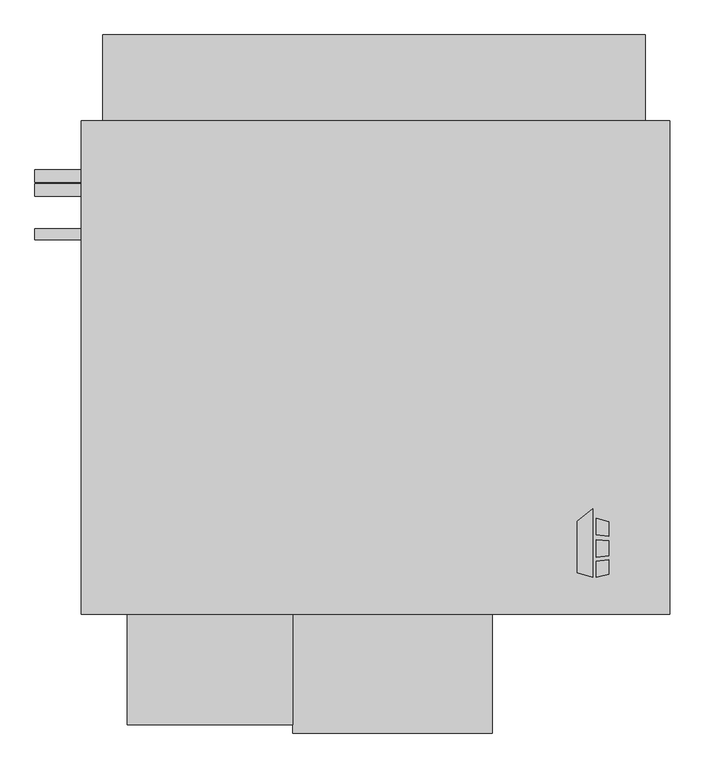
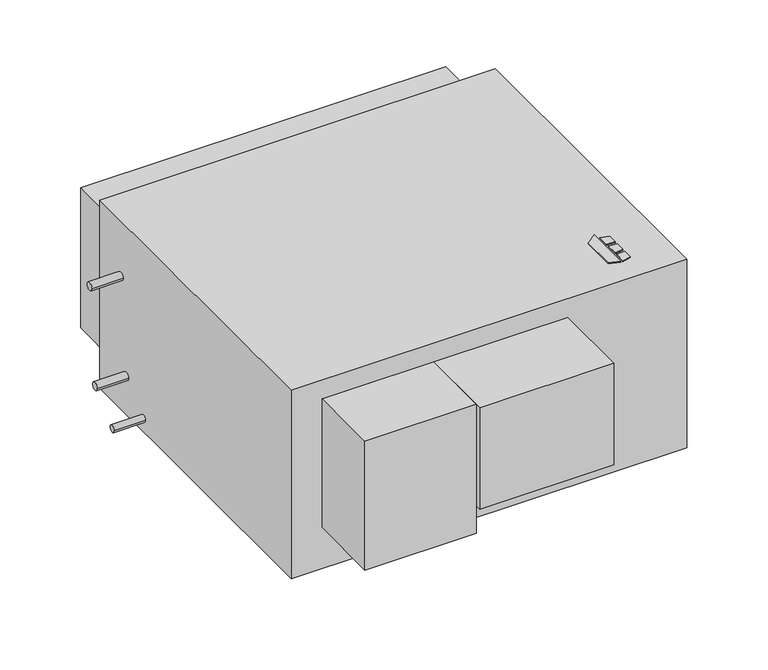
"""IFC4 building model written with IfcOpenShell, lengths in millimetres: proxy geometry, Horizontal_Direct_Drive_Blower_Coil_Unit_-_HDY_-_IEC_-_2-Pipe_Cool-EHeat_LH_2022 : Size 20 - 460v/60Hz/3Ph - 8 Row 19.9kW LH."""

from ifc_helpers import new_model, si_unit, point, frame, frame_2d, origin, origin_with_axes, place, context, project, spatial, polyline, circle_curve, trimmed, segment, composite_curve, outline, extrude, source, transform, mapped, element, save


def mechanical_equipment_acc0227f(model_context):
    return source(origin(), model_context, "Body", "SweptSolid", [
        extrude(outline(polyline([(-39.9980239, -337.5078476), (-7.4397272, -312.0705184), (-7.4397272, -454.025), (-39.9980239, -443.8054201), (-39.9980239, -337.5078476)])), origin_with_axes(), (0.0, 0.0, 1.0), 3.175),
        extrude(outline(polyline([(-0.6813942, -365.379852), (-0.6813942, -330.8999379), (25.4, -339.0865115), (25.4, -368.5822446), (-0.6813942, -365.379852)])), origin_with_axes(), (0.0, 0.0, 1.0), 3.175),
        extrude(outline(polyline([(25.4, -447.0365115), (-0.6813942, -454.025), (-0.6813942, -420.8036996), (25.4, -417.2618564), (25.4, -447.0365115)])), origin_with_axes(), (0.0, 0.0, 1.0), 3.175),
        extrude(outline(polyline([(25.4, -377.6638277), (25.4, -408.913983), (-0.6813942, -411.655248), (-0.6813942, -375.7975378), (25.4, -377.6638277)])), origin_with_axes(), (0.0, 0.0, 1.0), 3.175),
        extrude(outline(composite_curve([segment(trimmed(circle_curve(frame_2d((377.825, -177.8)), 12.7), [point((365.125, -177.8))], [point((390.525, -177.8))], False, "CARTESIAN"), True, "CONTINUOUS"), segment(trimmed(circle_curve(frame_2d((377.825, -177.8)), 12.7), [point((390.525, -177.8))], [point((365.125, -177.8))], False, "CARTESIAN"), True, "CONTINUOUS")], self_intersect=False)), frame((-1163.1025559, 0.0, 0.0), z_axis=(1.0, 0.0, 0.0), x_axis=(0.0, 1.0, 0.0)), (0.0, 0.0, 1.0), 96.3025559),
        extrude(outline(composite_curve([segment(trimmed(circle_curve(frame_2d((348.9715397, -485.7558174)), 12.7), [point((336.2715397, -485.7558174))], [point((361.6715397, -485.7558174))], False, "CARTESIAN"), True, "CONTINUOUS"), segment(trimmed(circle_curve(frame_2d((348.9715397, -485.7558174)), 12.7), [point((361.6715397, -485.7558174))], [point((336.2715397, -485.7558174))], False, "CARTESIAN"), True, "CONTINUOUS")], self_intersect=False)), frame((-1163.1025559, 0.0, 0.0), z_axis=(1.0, 0.0, 0.0), x_axis=(0.0, 1.0, 0.0)), (0.0, 0.0, 1.0), 96.3025559),
        extrude(outline(composite_curve([segment(trimmed(circle_curve(frame_2d((257.175, -568.3058174)), 11.1125), [point((246.0625, -568.3058174))], [point((268.2875, -568.3058174))], False, "CARTESIAN"), True, "CONTINUOUS"), segment(trimmed(circle_curve(frame_2d((257.175, -568.3058174)), 11.1125), [point((268.2875, -568.3058174))], [point((246.0625, -568.3058174))], False, "CARTESIAN"), True, "CONTINUOUS")], self_intersect=False)), frame((-1163.1025559, 0.0, 0.0), z_axis=(1.0, 0.0, 0.0), x_axis=(0.0, 1.0, 0.0)), (0.0, 0.0, 1.0), 96.3025559),
        extrude(outline(polyline([(152.4, 492.125), (152.4, -530.225), (-1066.8, -530.225), (-1066.8, 492.125), (152.4, 492.125)])), frame((0.0, 0.0, -612.7558174), z_axis=(0.0, 0.0, 1.0), x_axis=(1.0, 0.0, 0.0)), (0.0, 0.0, 1.0), 612.7558174),
        extrude(outline(polyline([(-628.65, -758.825), (-971.55, -758.825), (-971.55, -530.225), (-628.65, -530.225), (-628.65, -758.825)])), frame((0.0, 0.0, -479.4058174), z_axis=(0.0, 0.0, 1.0), x_axis=(1.0, 0.0, 0.0)), (0.0, 0.0, 1.0), 419.1),
        extrude(outline(polyline([(-1022.35, 669.925), (101.6, 669.925), (101.6, 492.125), (-1022.35, 492.125), (-1022.35, 669.925)])), frame((0.0, 0.0, -539.7308174), z_axis=(0.0, 0.0, 1.0), x_axis=(1.0, 0.0, 0.0)), (0.0, 0.0, 1.0), 457.2),
        extrude(outline(polyline([(-215.9, -776.2875), (-628.65, -776.2875), (-628.65, -530.225), (-215.9, -530.225), (-215.9, -776.2875)])), frame((0.0, 0.0, -390.5058174), z_axis=(0.0, 0.0, 1.0), x_axis=(1.0, 0.0, 0.0)), (0.0, 0.0, 1.0), 330.2),
    ])


if __name__ == "__main__":
    model = new_model("IFC4")
    model_context = context("Model", 3, world=origin())
    ifc_project = project(units=[si_unit("LENGTHUNIT", "METRE", prefix="MILLI")], contexts=[model_context])
    site = spatial("IfcSite", under=ifc_project)
    building = spatial("IfcBuilding", under=site)
    placement = place(None, origin())
    mechanical_equipment_shape = mechanical_equipment_acc0227f(model_context)
    element("IfcBuildingElementProxy", 1, Name="Horizontal_Direct_Drive_Blower_Coil_Unit_-_HDY_-_IEC_-_2-Pipe_Cool-EHeat_LH_2022 : Size 20 - 460v/60Hz/3Ph - 8 Row 19.9kW LH", ObjectType="Horizontal_Direct_Drive_Blower_Coil_Unit_-_HDY_-_IEC_-_2-Pipe_Cool-EHeat_LH_2022 : Size 20 - 460v/60Hz/3Ph - 8 Row 19.9kW LH", at=placement, inside=building, context=model_context, shape_type="MappedRepresentation", body=[
        mapped(mechanical_equipment_shape, transform((0.0, 0.0, 0.0), x_axis=(1.0, 0.0, 0.0), y_axis=(0.0, 1.0, 0.0), z_axis=(0.0, 0.0, 1.0))),
    ])
    save(model, "model.ifc")
